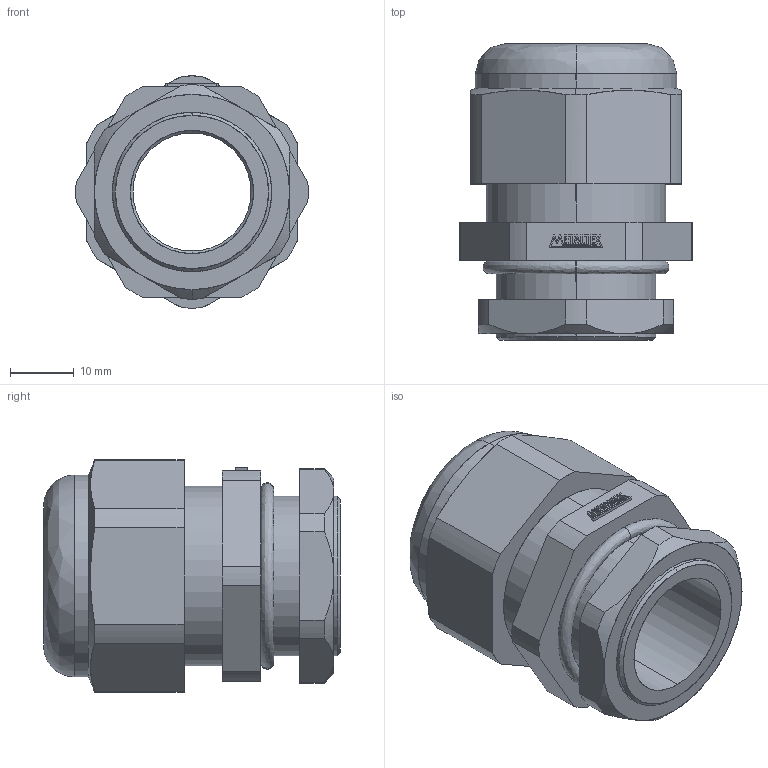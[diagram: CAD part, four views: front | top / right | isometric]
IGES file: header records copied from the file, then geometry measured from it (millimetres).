
Start section: SolidWorks IGES file using analytic representation for surfaces
Global section: file name: D:\X - Arquivos\PROEX\Empresas\P11 - METALTEX\01 - Produtos\IGES\Terceira remessa\Etapa 2\CH-M25.IGS; native system: SolidWorks 2012; preprocessor: SolidWorks 2012; author: Usuario; date: 180207.124528; units: millimetre
Bounding box: 36.44 x 46.5 x 36.4 mm (x, y, z)
Surface area: 10000.4 mm2 (no closed solid volume)
Topology: 0 solids, 0 shells, 174 faces, 1387 edges, 1387 vertices
Faces by surface type: bspline 125, revolution 49
